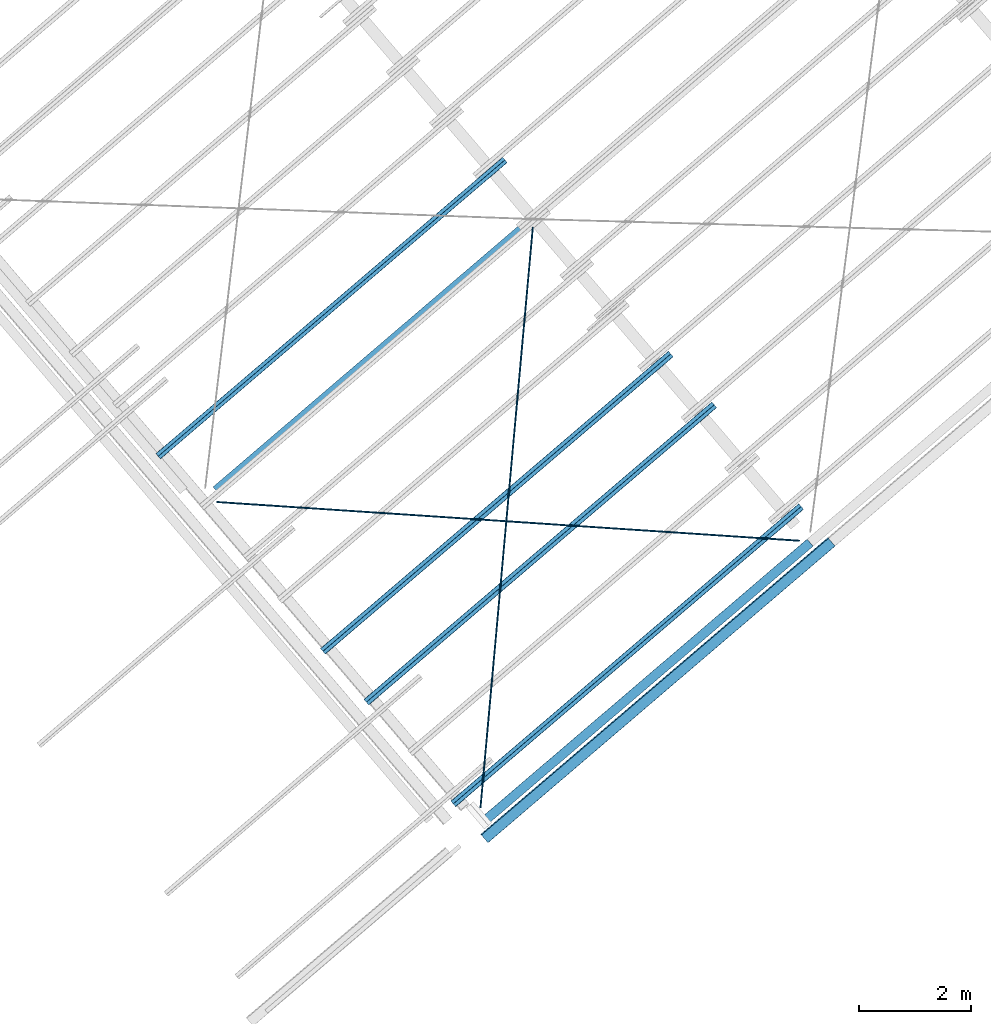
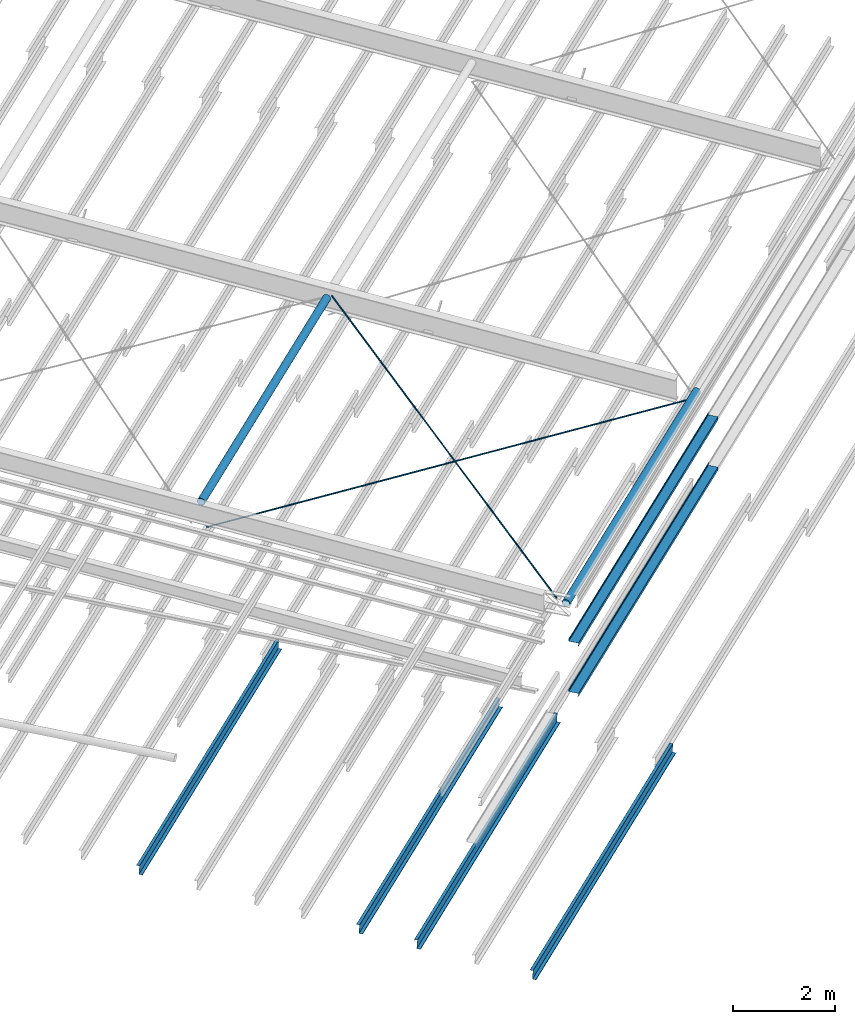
# One storey, part 3 of 25: 8 beams, 2 members, 2 elements without a shape of their own.
"""IFC2X3 building model written with IfcOpenShell, lengths in millimetres."""

from ifc_helpers import new_model, entity, si_unit, converted_unit, derived_unit, direction, frame, frame_2d, origin, origin_2d_with_axis, place, context, subcontext, project, spatial, polyline, circle_curve, parameter, trimmed, segment, composite_curve, circle, hollow_circle, outline, extrude, source, transform, mapped, material, type_object, type_shapes, element, aggregate, save


model = new_model("IFC2X3")

# Units and contexts
model_context = context("Model", 3, precision=0.01, world=origin(), true_north=direction((6.123031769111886e-17, 1.0)))
body_context = subcontext(model_context, "Body", "Model", "MODEL_VIEW")
ifc_project = project(units=[si_unit("LENGTHUNIT", "METRE", prefix="MILLI"), si_unit("AREAUNIT", "SQUARE_METRE"), si_unit("VOLUMEUNIT", "CUBIC_METRE"), converted_unit("PLANEANGLEUNIT", "DEGREE", entity("IfcRatioMeasure", 0.017453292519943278), si_unit("PLANEANGLEUNIT", "RADIAN"), dimensions=[0, 0, 0, 0, 0, 0, 0]), si_unit("MASSUNIT", "GRAM", prefix="KILO"), derived_unit("MASSDENSITYUNIT", [(si_unit("MASSUNIT", "GRAM", prefix="KILO"), 1), (si_unit("LENGTHUNIT", "METRE"), -3)]), derived_unit("MOMENTOFINERTIAUNIT", [(si_unit("LENGTHUNIT", "METRE"), 4)]), si_unit("TIMEUNIT", "SECOND"), si_unit("FREQUENCYUNIT", "HERTZ"), si_unit("THERMODYNAMICTEMPERATUREUNIT", "DEGREE_CELSIUS"), derived_unit("THERMALTRANSMITTANCEUNIT", [(si_unit("MASSUNIT", "GRAM", prefix="KILO"), 1), (si_unit("THERMODYNAMICTEMPERATUREUNIT", "KELVIN"), -1), (si_unit("TIMEUNIT", "SECOND"), -3)]), derived_unit("VOLUMETRICFLOWRATEUNIT", [(si_unit("LENGTHUNIT", "METRE"), 3), (si_unit("TIMEUNIT", "SECOND"), -1)]), derived_unit("MASSFLOWRATEUNIT", [(si_unit("MASSUNIT", "GRAM", prefix="KILO"), 1), (si_unit("TIMEUNIT", "SECOND"), -1)]), derived_unit("ROTATIONALFREQUENCYUNIT", [(si_unit("TIMEUNIT", "SECOND"), -1)]), si_unit("ELECTRICCURRENTUNIT", "AMPERE"), si_unit("ELECTRICVOLTAGEUNIT", "VOLT"), si_unit("POWERUNIT", "WATT"), si_unit("FORCEUNIT", "NEWTON", prefix="KILO"), si_unit("ILLUMINANCEUNIT", "LUX"), si_unit("LUMINOUSFLUXUNIT", "LUMEN"), si_unit("LUMINOUSINTENSITYUNIT", "CANDELA"), derived_unit("USERDEFINED", [(si_unit("MASSUNIT", "GRAM", prefix="KILO"), -1), (si_unit("LENGTHUNIT", "METRE"), -2), (si_unit("TIMEUNIT", "SECOND"), 3), (si_unit("LUMINOUSFLUXUNIT", "LUMEN"), 1)]), derived_unit("SOUNDPOWERUNIT", [(si_unit("MASSUNIT", "GRAM", prefix="KILO"), 1), (si_unit("LENGTHUNIT", "METRE"), 2), (si_unit("TIMEUNIT", "SECOND"), -3)]), derived_unit("LINEARVELOCITYUNIT", [(si_unit("LENGTHUNIT", "METRE"), 1), (si_unit("TIMEUNIT", "SECOND"), -1)]), si_unit("PRESSUREUNIT", "PASCAL"), derived_unit("USERDEFINED", [(si_unit("LENGTHUNIT", "METRE"), -2), (si_unit("MASSUNIT", "GRAM", prefix="KILO"), 1), (si_unit("TIMEUNIT", "SECOND"), -2)]), derived_unit("LINEARFORCEUNIT", [(si_unit("MASSUNIT", "GRAM", prefix="KILO"), 1), (si_unit("LENGTHUNIT", "METRE"), 1), (si_unit("TIMEUNIT", "SECOND"), -2), (si_unit("LENGTHUNIT", "METRE"), -1)]), derived_unit("PLANARFORCEUNIT", [(si_unit("MASSUNIT", "GRAM", prefix="KILO"), 1), (si_unit("LENGTHUNIT", "METRE"), 1), (si_unit("TIMEUNIT", "SECOND"), -2), (si_unit("LENGTHUNIT", "METRE"), -2)])], contexts=[model_context])

# Site, building, storey
site_placement = place(None, frame((962.4174930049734, -6014.433753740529, 0.0), z_axis=(0.0, 0.0, 1.0), x_axis=(0.7601792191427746, 0.649713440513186, 0.0)))
site = spatial("IfcSite", under=ifc_project, at=site_placement, Name="Default", CompositionType="ELEMENT")
building_placement = place(site_placement, origin())
building = spatial("IfcBuilding", under=site, at=building_placement, CompositionType="ELEMENT")
storey_placement = place(building_placement, frame((0.0, 0.0, 9200.0)))
storey = spatial("IfcBuildingStorey", under=building, at=storey_placement, Name="TOP OF CEILING", CompositionType="ELEMENT", Elevation=9200.000000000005)

# Beams
ifc_material_1 = material(Name="Metal - Steel - 300 MPa")
beam_type_1 = type_object("IfcBeamType", Name="ADSK_AU_CHS-Circular Hollow Sections (AS 1163_C350):168.3x6.4CHS", PredefinedType="NOTDEFINED")
beam_1_placement = place(storey_placement, frame((162338.96020471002, -18370.81558212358, 2557.8785563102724), z_axis=(0.0, 0.0, 1.0), x_axis=(-1.0, 0.0, 0.0)))
element("IfcBeam", 1, at=beam_1_placement, inside=storey, type_object=beam_type_1, material=ifc_material_1, Name="ADSK_AU_CHS-Circular Hollow Sections (AS 1163_C350):168.3x6.4CHS", ObjectType="ADSK_AU_CHS-Circular Hollow Sections (AS 1163_C350):168.3x6.4CHS", context=body_context, shape_type="SweptSolid", body=[
    extrude(hollow_circle(Radius=84.15000000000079, WallThickness=6.4000000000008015, at=origin_2d_with_axis()), frame((116.10000000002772, 0.0, -84.15000000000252), z_axis=(1.0, 0.0, 0.0), x_axis=(0.0, 1.0, 0.0)), (0.0, 0.0, 1.0), 7358.8009537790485),
])
beam_2_placement = place(storey_placement, frame((154571.26020471, -25988.428082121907, 2036.6362333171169)))
element("IfcBeam", 2, at=beam_2_placement, inside=storey, type_object=beam_type_1, material=ifc_material_1, Name="ADSK_AU_CHS-Circular Hollow Sections (AS 1163_C350):168.3x6.4CHS", ObjectType="ADSK_AU_CHS-Circular Hollow Sections (AS 1163_C350):168.3x6.4CHS", context=body_context, shape_type="SweptSolid", body=[
    extrude(hollow_circle(Radius=84.15000000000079, WallThickness=6.4000000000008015, at=origin_2d_with_axis()), frame((117.19999999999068, 0.0, -84.15000000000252), z_axis=(1.0, 0.0, 0.0), x_axis=(0.0, 1.0, 0.0)), (0.0, 0.0, 1.0), 7650.4999999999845),
])
beam_type_2 = type_object("IfcBeamType", Name="ADSK_AU_Round Bars (AS 3679_1):24ROD", PredefinedType="NOTDEFINED")
beam_3_placement = place(storey_placement, frame((154571.26020471, -25957.92808212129, 1970.0), z_axis=(-0.038674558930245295, -0.03777543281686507, 0.9985375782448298), x_axis=(0.7143273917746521, 0.6977203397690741, 0.05406204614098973)))
element("IfcBeam", 3, at=beam_3_placement, inside=storey, type_object=beam_type_2, Name="ADSK_AU_Round Bars (AS 3679_1):24ROD", ObjectType="ADSK_AU_Round Bars (AS 3679_1):24ROD", context=body_context, shape_type="SweptSolid", body=[
    extrude(circle(Radius=12.000000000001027, at=frame_2d((-3.9086707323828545e-25, -2.1625670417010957e-12), x_axis=(1.0, 0.0))), frame((279.72275504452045, 0.0, -12.0), z_axis=(1.0, 0.0, 0.0), x_axis=(0.0, -1.0, 0.0)), (0.0, 0.0, 1.0), 10447.500000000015),
])
beam_4_placement = place(storey_placement, frame((162338.96020470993, -25957.928082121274, 1800.0), z_axis=(0.013832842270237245, -0.013511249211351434, 0.9998130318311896), x_axis=(-0.7152398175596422, 0.6986115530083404, 0.01933652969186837)))
element("IfcBeam", 4, at=beam_4_placement, inside=storey, type_object=beam_type_2, Name="ADSK_AU_Round Bars (AS 3679_1):24ROD", ObjectType="ADSK_AU_Round Bars (AS 3679_1):24ROD", context=body_context, shape_type="SweptSolid", body=[
    extrude(circle(Radius=11.999999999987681, at=frame_2d((3.098618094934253e-12, 1.521582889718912e-11), x_axis=(1.0, 0.0))), frame((170.5367242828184, 0.0, -12.0), z_axis=(1.0, 0.0, 0.0), x_axis=(0.0, -1.0, 0.0)), (0.0, 0.0, 1.0), 10456.700000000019),
])

# Assembly, beam
assembly_1_placement = place(storey_placement, origin())
assembly_1 = element("IfcElementAssembly", 5, at=assembly_1_placement, inside=storey, Name="Structural Beam System:Structural Beam System 1", ObjectType="Structural Beam System:Structural Beam System 1", AssemblyPlace="NOTDEFINED", PredefinedType="BEAM_GRID")
ifc_material_2 = material(Name="Metal - Steel - 345 MPa")
beam_type_3 = type_object("IfcBeamType", Name="ADSK_AU_Light Gauge-Zeds:Z20015", PredefinedType="NOTDEFINED")
beam_5_placement = place(building_placement, frame((162638.96020471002, -17232.97461266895, 2984.9614142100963), z_axis=(0.0, 0.0, 1.0), x_axis=(-1.0, 0.0, 0.0)))
beam_5 = element("IfcBeam", 6, at=beam_5_placement, type_object=beam_type_3, material=ifc_material_2, Name="ADSK_AU_Light Gauge-Zeds:Z20015", ObjectType="ADSK_AU_Light Gauge-Zeds:Z20015", context=body_context, shape_type="SweptSolid", body=[
    extrude(outline(composite_curve([segment(polyline([(100.0, 1.0), (100.0, -69.0)]), True, "CONTINUOUS"), segment(trimmed(circle_curve(frame_2d((98.0, -69.0), x_axis=(0.0, -1.0)), 2.000000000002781), [parameter(0.0)], [parameter(89.99999999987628)], True, "PARAMETER"), False, "CONTINUOUS"), segment(polyline([(98.0, -71.0), (81.49999999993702, -71.0)]), True, "CONTINUOUS"), segment(polyline([(81.49999999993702, -71.0), (81.49999999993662, -72.50000000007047)]), True, "CONTINUOUS"), segment(polyline([(81.49999999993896, -72.50000000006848), (98.0, -72.5000000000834)]), True, "CONTINUOUS"), segment(trimmed(circle_curve(frame_2d((98.0, -69.0), x_axis=(1.0, 0.0)), 3.5000000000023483), [parameter(270.00000000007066)], [parameter(0.0)], True, "PARAMETER"), True, "CONTINUOUS"), segment(polyline([(101.49999999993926, -69.0), (101.50000000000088, 1.0)]), True, "CONTINUOUS"), segment(trimmed(circle_curve(frame_2d((98.0, 1.0), x_axis=(0.0, 1.0)), 3.500000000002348), [parameter(270.00000000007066)], [parameter(0.0)], True, "PARAMETER"), True, "CONTINUOUS"), segment(polyline([(98.0, 4.49999999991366), (-98.0, 4.500000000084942)]), True, "CONTINUOUS"), segment(trimmed(circle_curve(frame_2d((-98.0, 6.500000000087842), x_axis=(-1.0, 0.0)), 2.0000000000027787), [parameter(0.0)], [parameter(89.99999999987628)], True, "PARAMETER"), False, "CONTINUOUS"), segment(polyline([(-100.0, 6.500000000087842), (-100.0, 64.0)]), True, "CONTINUOUS"), segment(trimmed(circle_curve(frame_2d((-98.0, 64.0), x_axis=(0.0, 1.0)), 2.000000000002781), [parameter(0.0)], [parameter(89.99999999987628)], True, "PARAMETER"), False, "CONTINUOUS"), segment(polyline([(-98.0, 66.0), (-81.49999999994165, 66.0)]), True, "CONTINUOUS"), segment(polyline([(-81.4999999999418, 66.0), (-81.49999999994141, 67.5000000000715)]), True, "CONTINUOUS"), segment(polyline([(-81.49999999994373, 67.50000000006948), (-98.0, 67.50000000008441)]), True, "CONTINUOUS"), segment(trimmed(circle_curve(frame_2d((-98.0, 64.0), x_axis=(-1.0, 0.0)), 3.500000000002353), [parameter(270.00000000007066)], [parameter(0.0)], True, "PARAMETER"), True, "CONTINUOUS"), segment(polyline([(-101.49999999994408, 64.0), (-101.4999999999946, 6.500000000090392)]), True, "CONTINUOUS"), segment(trimmed(circle_curve(frame_2d((-98.0, 6.500000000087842), x_axis=(0.0, -1.0)), 3.5000000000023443), [parameter(270.00000000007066)], [parameter(0.0)], True, "PARAMETER"), True, "CONTINUOUS"), segment(polyline([(-98.0, 3.0), (98.0, 3.0)]), True, "CONTINUOUS"), segment(trimmed(circle_curve(frame_2d((98.0, 1.0), x_axis=(1.0, 0.0)), 2.000000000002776), [parameter(0.0)], [parameter(89.99999999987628)], True, "PARAMETER"), False, "CONTINUOUS")], self_intersect=False)), frame((0.013129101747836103, -2.5912438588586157, -101.56665523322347), z_axis=(-1.0, 0.0, 0.0), x_axis=(0.0, -0.06975647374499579, -0.9975640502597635)), (0.0, 0.0, -1.0), 8164.000000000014),
])
aggregate(assembly_1, [beam_5])

# Assembly, beams
assembly_2_placement = place(storey_placement, origin())
assembly_2 = element("IfcElementAssembly", 7, at=assembly_2_placement, inside=storey, Name="Structural Beam System:Structural Beam System 1", ObjectType="Structural Beam System:Structural Beam System 1", AssemblyPlace="NOTDEFINED", PredefinedType="BEAM_GRID")
ifc_material_3 = material(Name="Metal - Light Gauge")
beam_type_4 = type_object("IfcBeamType", Name="ADSK_AU_Light Gauge-Zeds:Z20024", PredefinedType="NOTDEFINED")
beam_6_placement = place(building_placement, frame((162638.67477392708, -21800.485312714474, 2665.569952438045), z_axis=(0.0, 0.0, 1.0), x_axis=(-1.0, 0.0, 0.0)))
beam_6 = element("IfcBeam", 8, at=beam_6_placement, type_object=beam_type_4, material=ifc_material_3, Name="ADSK_AU_Light Gauge-Zeds:Z20024", ObjectType="ADSK_AU_Light Gauge-Zeds:Z20024", context=body_context, shape_type="SweptSolid", body=[
    extrude(outline(composite_curve([segment(polyline([(99.10000000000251, 1.030000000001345), (99.10000000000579, -71.66999999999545)]), True, "CONTINUOUS"), segment(trimmed(circle_curve(frame_2d((97.10000000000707, -71.66999999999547), x_axis=(0.0, -1.0)), 1.9999999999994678), [parameter(0.0)], [parameter(90.00000000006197)], True, "PARAMETER"), False, "CONTINUOUS"), segment(polyline([(97.10000000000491, -73.66999999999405), (79.5000000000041, -73.66999999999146)]), True, "CONTINUOUS"), segment(polyline([(79.5000000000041, -73.66999999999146), (79.50000000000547, -76.06999999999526)]), True, "CONTINUOUS"), segment(polyline([(79.50000000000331, -76.0699999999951), (97.10000000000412, -76.06999999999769)]), True, "CONTINUOUS"), segment(trimmed(circle_curve(frame_2d((97.10000000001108, -71.67000000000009), x_axis=(1.0, 0.0)), 4.39999999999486), [parameter(269.9999999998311)], [parameter(0.0)], True, "PARAMETER"), True, "CONTINUOUS"), segment(polyline([(101.50000000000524, -71.66999999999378), (101.50000000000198, 1.0300000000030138)]), True, "CONTINUOUS"), segment(trimmed(circle_curve(frame_2d((97.10000000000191, 1.030000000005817), x_axis=(0.0, 1.0)), 4.399999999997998), [parameter(269.9999999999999)], [parameter(0.0)], True, "PARAMETER"), True, "CONTINUOUS"), segment(polyline([(97.10000000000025, 5.430000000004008), (-97.09999999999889, 5.429999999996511)]), True, "CONTINUOUS"), segment(trimmed(circle_curve(frame_2d((-97.10000000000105, 7.42999999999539), x_axis=(-1.0, 0.0)), 1.9999999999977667), [parameter(0.0)], [parameter(90.00000000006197)], True, "PARAMETER"), False, "CONTINUOUS"), segment(polyline([(-99.09999999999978, 7.429999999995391), (-99.10000000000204, 66.02999999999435)]), True, "CONTINUOUS"), segment(trimmed(circle_curve(frame_2d((-97.10000000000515, 66.02999999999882), x_axis=(0.0, 1.0)), 1.9999999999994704), [parameter(0.0)], [parameter(90.00000000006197)], True, "PARAMETER"), False, "CONTINUOUS"), segment(polyline([(-97.10000000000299, 68.0299999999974), (-79.5000000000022, 68.02999999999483)]), True, "CONTINUOUS"), segment(polyline([(-79.50000000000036, 68.02999999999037), (-79.50000000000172, 70.42999999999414)]), True, "CONTINUOUS"), segment(polyline([(-79.50000000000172, 70.42999999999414), (-97.10000000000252, 70.42999999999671)]), True, "CONTINUOUS"), segment(trimmed(circle_curve(frame_2d((-97.10000000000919, 66.03000000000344), x_axis=(-1.0, 0.0)), 4.3999999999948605), [parameter(269.9999999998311)], [parameter(0.0)], True, "PARAMETER"), True, "CONTINUOUS"), segment(polyline([(-101.50000000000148, 66.02999999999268), (-101.49999999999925, 7.429999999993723)]), True, "CONTINUOUS"), segment(trimmed(circle_curve(frame_2d((-97.10000000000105, 7.42999999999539), x_axis=(0.0, -1.0)), 4.399999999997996), [parameter(269.9999999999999)], [parameter(0.0)], True, "PARAMETER"), True, "CONTINUOUS"), segment(polyline([(-97.0999999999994, 3.0299999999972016), (97.09999999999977, 3.0300000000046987)]), True, "CONTINUOUS"), segment(trimmed(circle_curve(frame_2d((97.10000000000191, 1.030000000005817), x_axis=(1.0, 0.0)), 1.9999999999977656), [parameter(0.0)], [parameter(90.00000000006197)], True, "PARAMETER"), False, "CONTINUOUS")], self_intersect=False)), frame((0.0, -1.6635092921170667, -101.63152875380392), z_axis=(-1.0, 0.0, 0.0), x_axis=(0.0, -0.06975647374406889, -0.9975640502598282)), (0.0, 0.0, -1.0), 8192.00000000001),
])
beam_7_placement = place(building_placement, frame((162638.67477392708, -22997.56217302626, 2581.8621839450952), z_axis=(0.0, 0.0, 1.0), x_axis=(-1.0, 0.0, 0.0)))
beam_7 = element("IfcBeam", 9, at=beam_7_placement, type_object=beam_type_4, material=ifc_material_3, Name="ADSK_AU_Light Gauge-Zeds:Z20024", ObjectType="ADSK_AU_Light Gauge-Zeds:Z20024", context=body_context, shape_type="SweptSolid", body=[
    extrude(outline(composite_curve([segment(polyline([(99.10000000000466, 1.030000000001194), (99.10000000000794, -71.6699999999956)]), True, "CONTINUOUS"), segment(trimmed(circle_curve(frame_2d((97.10000000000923, -71.66999999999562), x_axis=(0.0, -1.0)), 1.9999999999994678), [parameter(0.0)], [parameter(90.00000000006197)], True, "PARAMETER"), False, "CONTINUOUS"), segment(polyline([(97.10000000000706, -73.66999999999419), (79.50000000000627, -73.66999999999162)]), True, "CONTINUOUS"), segment(polyline([(79.50000000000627, -73.66999999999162), (79.50000000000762, -76.0699999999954)]), True, "CONTINUOUS"), segment(polyline([(79.50000000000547, -76.06999999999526), (97.10000000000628, -76.06999999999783)]), True, "CONTINUOUS"), segment(trimmed(circle_curve(frame_2d((97.10000000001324, -71.67000000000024), x_axis=(1.0, 0.0)), 4.39999999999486), [parameter(269.9999999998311)], [parameter(0.0)], True, "PARAMETER"), True, "CONTINUOUS"), segment(polyline([(101.5000000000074, -71.66999999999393), (101.50000000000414, 1.0300000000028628)]), True, "CONTINUOUS"), segment(trimmed(circle_curve(frame_2d((97.10000000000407, 1.0300000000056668), x_axis=(0.0, 1.0)), 4.399999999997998), [parameter(269.9999999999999)], [parameter(0.0)], True, "PARAMETER"), True, "CONTINUOUS"), segment(polyline([(97.1000000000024, 5.430000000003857), (-97.09999999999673, 5.42999999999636)]), True, "CONTINUOUS"), segment(trimmed(circle_curve(frame_2d((-97.0999999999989, 7.42999999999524), x_axis=(-1.0, 0.0)), 1.9999999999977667), [parameter(0.0)], [parameter(90.00000000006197)], True, "PARAMETER"), False, "CONTINUOUS"), segment(polyline([(-99.09999999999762, 7.42999999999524), (-99.09999999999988, 66.0299999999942)]), True, "CONTINUOUS"), segment(trimmed(circle_curve(frame_2d((-97.100000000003, 66.02999999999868), x_axis=(0.0, 1.0)), 1.9999999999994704), [parameter(0.0)], [parameter(90.00000000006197)], True, "PARAMETER"), False, "CONTINUOUS"), segment(polyline([(-97.10000000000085, 68.02999999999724), (-79.50000000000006, 68.02999999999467)]), True, "CONTINUOUS"), segment(polyline([(-79.4999999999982, 68.02999999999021), (-79.49999999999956, 70.42999999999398)]), True, "CONTINUOUS"), segment(polyline([(-79.49999999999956, 70.42999999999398), (-97.10000000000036, 70.42999999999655)]), True, "CONTINUOUS"), segment(trimmed(circle_curve(frame_2d((-97.10000000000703, 66.0300000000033), x_axis=(-1.0, 0.0)), 4.3999999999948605), [parameter(269.9999999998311)], [parameter(0.0)], True, "PARAMETER"), True, "CONTINUOUS"), segment(polyline([(-101.49999999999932, 66.02999999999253), (-101.49999999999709, 7.429999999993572)]), True, "CONTINUOUS"), segment(trimmed(circle_curve(frame_2d((-97.0999999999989, 7.42999999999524), x_axis=(0.0, -1.0)), 4.399999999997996), [parameter(269.9999999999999)], [parameter(0.0)], True, "PARAMETER"), True, "CONTINUOUS"), segment(polyline([(-97.09999999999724, 3.0299999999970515), (97.10000000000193, 3.0300000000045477)]), True, "CONTINUOUS"), segment(trimmed(circle_curve(frame_2d((97.10000000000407, 1.0300000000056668), x_axis=(1.0, 0.0)), 1.9999999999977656), [parameter(0.0)], [parameter(90.00000000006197)], True, "PARAMETER"), False, "CONTINUOUS")], self_intersect=False)), frame((0.0, -1.6635092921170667, -101.63152875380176), z_axis=(-1.0, 0.0, 0.0), x_axis=(0.0, -0.06975647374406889, -0.9975640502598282)), (0.0, 0.0, -1.0), 8192.00000000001),
])
beam_8_placement = place(building_placement, frame((162638.67477392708, -25391.715893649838, 2414.4466469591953), z_axis=(0.0, 0.0, 1.0), x_axis=(-1.0, 0.0, 0.0)))
beam_8 = element("IfcBeam", 10, at=beam_8_placement, type_object=beam_type_4, material=ifc_material_3, Name="ADSK_AU_Light Gauge-Zeds:Z20024", ObjectType="ADSK_AU_Light Gauge-Zeds:Z20024", context=body_context, shape_type="SweptSolid", body=[
    extrude(outline(composite_curve([segment(polyline([(99.10000000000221, 1.029999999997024), (99.10000000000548, -71.66999999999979)]), True, "CONTINUOUS"), segment(trimmed(circle_curve(frame_2d((97.10000000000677, -71.66999999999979), x_axis=(0.0, -1.0)), 1.9999999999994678), [parameter(0.0)], [parameter(90.00000000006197)], True, "PARAMETER"), False, "CONTINUOUS"), segment(polyline([(97.10000000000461, -73.66999999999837), (79.5000000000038, -73.6699999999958)]), True, "CONTINUOUS"), segment(polyline([(79.5000000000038, -73.6699999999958), (79.50000000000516, -76.06999999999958)]), True, "CONTINUOUS"), segment(polyline([(79.500000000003, -76.06999999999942), (97.10000000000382, -76.07000000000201)]), True, "CONTINUOUS"), segment(trimmed(circle_curve(frame_2d((97.10000000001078, -71.6700000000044), x_axis=(1.0, 0.0)), 4.39999999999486), [parameter(269.9999999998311)], [parameter(0.0)], True, "PARAMETER"), True, "CONTINUOUS"), segment(polyline([(101.50000000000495, -71.66999999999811), (101.50000000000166, 1.029999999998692)]), True, "CONTINUOUS"), segment(trimmed(circle_curve(frame_2d((97.10000000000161, 1.030000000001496), x_axis=(0.0, 1.0)), 4.399999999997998), [parameter(269.9999999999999)], [parameter(0.0)], True, "PARAMETER"), True, "CONTINUOUS"), segment(polyline([(97.09999999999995, 5.429999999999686), (-97.0999999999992, 5.429999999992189)]), True, "CONTINUOUS"), segment(trimmed(circle_curve(frame_2d((-97.10000000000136, 7.429999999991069), x_axis=(-1.0, 0.0)), 1.9999999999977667), [parameter(0.0)], [parameter(90.00000000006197)], True, "PARAMETER"), False, "CONTINUOUS"), segment(polyline([(-99.10000000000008, 7.42999999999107), (-99.10000000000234, 66.02999999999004)]), True, "CONTINUOUS"), segment(trimmed(circle_curve(frame_2d((-97.10000000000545, 66.0299999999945), x_axis=(0.0, 1.0)), 1.9999999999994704), [parameter(0.0)], [parameter(90.00000000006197)], True, "PARAMETER"), False, "CONTINUOUS"), segment(polyline([(-97.10000000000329, 68.02999999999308), (-79.5000000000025, 68.02999999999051)]), True, "CONTINUOUS"), segment(polyline([(-79.50000000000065, 68.02999999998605), (-79.50000000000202, 70.4299999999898)]), True, "CONTINUOUS"), segment(polyline([(-79.50000000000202, 70.4299999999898), (-97.10000000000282, 70.42999999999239)]), True, "CONTINUOUS"), segment(trimmed(circle_curve(frame_2d((-97.10000000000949, 66.02999999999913), x_axis=(-1.0, 0.0)), 4.3999999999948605), [parameter(269.9999999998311)], [parameter(0.0)], True, "PARAMETER"), True, "CONTINUOUS"), segment(polyline([(-101.50000000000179, 66.02999999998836), (-101.49999999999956, 7.429999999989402)]), True, "CONTINUOUS"), segment(trimmed(circle_curve(frame_2d((-97.10000000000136, 7.429999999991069), x_axis=(0.0, -1.0)), 4.399999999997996), [parameter(269.9999999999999)], [parameter(0.0)], True, "PARAMETER"), True, "CONTINUOUS"), segment(polyline([(-97.0999999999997, 3.02999999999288), (97.09999999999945, 3.030000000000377)]), True, "CONTINUOUS"), segment(trimmed(circle_curve(frame_2d((97.10000000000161, 1.030000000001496), x_axis=(1.0, 0.0)), 1.9999999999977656), [parameter(0.0)], [parameter(90.00000000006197)], True, "PARAMETER"), False, "CONTINUOUS")], self_intersect=False)), frame((0.0, -1.6635092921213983, -101.63152875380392), z_axis=(-1.0, 0.0, 0.0), x_axis=(0.0, -0.06975647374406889, -0.9975640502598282)), (0.0, 0.0, -1.0), 8192.00000000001),
])
aggregate(assembly_2, [beam_6, beam_7, beam_8])

# Members
member_type_1 = type_object("IfcMemberType", Name="ADSK_AU_Light Gauge-Zeds:Z20012", PredefinedType="BRACE", material=ifc_material_2)
shared_shape_1 = source(origin(), body_context, "Body", "SweptSolid", [
    extrude(outline(composite_curve([segment(polyline([(-98.30000000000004, -66.44000000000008), (-82.0, -66.44000000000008)]), True, "CONTINUOUS"), segment(polyline([(-82.0, -66.44000000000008), (-82.0, -65.24000000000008)]), True, "CONTINUOUS"), segment(polyline([(-82.0, -65.24000000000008), (-98.29999999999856, -65.24000000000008)]), True, "CONTINUOUS"), segment(trimmed(circle_curve(frame_2d((-98.30000000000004, -63.24000000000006), x_axis=(0.0, -1.0)), 2.0000000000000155), [parameter(270.00000000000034)], [parameter(0.0)], True, "PARAMETER"), False, "CONTINUOUS"), segment(polyline([(-100.30000000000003, -63.24000000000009), (-100.29999999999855, -6.440000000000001)]), True, "CONTINUOUS"), segment(trimmed(circle_curve(frame_2d((-98.29999999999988, -6.439999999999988), x_axis=(-1.0, 0.0)), 1.9999999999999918), [parameter(269.9999999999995)], [parameter(0.0)], True, "PARAMETER"), False, "CONTINUOUS"), segment(polyline([(-98.29999999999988, -4.439999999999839), (98.30000000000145, -4.439999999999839)]), True, "CONTINUOUS"), segment(trimmed(circle_curve(frame_2d((98.29999999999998, -1.239999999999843), x_axis=(0.0, -1.0)), 3.199999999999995), [parameter(0.0)], [parameter(90.00000000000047)], True, "PARAMETER"), True, "CONTINUOUS"), segment(polyline([(101.49999999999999, -1.2399999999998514), (101.50000000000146, 68.3599999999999)]), True, "CONTINUOUS"), segment(trimmed(circle_curve(frame_2d((98.29999999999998, 68.35999999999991), x_axis=(1.0, 0.0)), 3.2000000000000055), [parameter(0.0)], [parameter(90.00000000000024)], True, "PARAMETER"), True, "CONTINUOUS"), segment(polyline([(98.3, 71.5599999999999), (82.0, 71.5599999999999)]), True, "CONTINUOUS"), segment(polyline([(82.0, 71.5599999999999), (82.0, 70.3599999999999)]), True, "CONTINUOUS"), segment(polyline([(82.0, 70.3599999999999), (98.30000000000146, 70.3599999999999)]), True, "CONTINUOUS"), segment(trimmed(circle_curve(frame_2d((98.29999999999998, 68.35999999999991), x_axis=(0.0, 1.0)), 1.9999999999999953), [parameter(269.99999999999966)], [parameter(0.0)], True, "PARAMETER"), False, "CONTINUOUS"), segment(polyline([(100.29999999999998, 68.3599999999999), (100.30000000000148, -1.2399999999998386)]), True, "CONTINUOUS"), segment(trimmed(circle_curve(frame_2d((98.29999999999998, -1.2399999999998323), x_axis=(1.0, 0.0)), 2.000000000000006), [parameter(270.00000000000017)], [parameter(0.0)], True, "PARAMETER"), False, "CONTINUOUS"), segment(polyline([(98.3, -3.2399999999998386), (-98.29999999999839, -3.2399999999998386)]), True, "CONTINUOUS"), segment(trimmed(circle_curve(frame_2d((-98.29999999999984, -6.440000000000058), x_axis=(0.0, 1.0)), 3.200000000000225), [parameter(0.0)], [parameter(89.9999999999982)], True, "PARAMETER"), True, "CONTINUOUS"), segment(polyline([(-101.50000000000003, -6.440000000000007), (-101.49999999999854, -63.24000000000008)]), True, "CONTINUOUS"), segment(trimmed(circle_curve(frame_2d((-98.30000000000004, -63.24000000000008), x_axis=(-1.0, 0.0)), 3.200000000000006), [parameter(0.0)], [parameter(90.00000000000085)], True, "PARAMETER"), True, "CONTINUOUS")], self_intersect=False)), frame((-4026.6999999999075, 4.439999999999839, 0.0), z_axis=(1.0, 0.0, 0.0), x_axis=(0.0, 0.0, -1.0)), (0.0, 0.0, 1.0), 8172.199999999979),
])
type_shapes(member_type_1, [shared_shape_1])
member_1_placement = place(storey_placement, frame((158493.46020470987, -26224.92808212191, 23.59999999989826), z_axis=(0.0, 1.0, 0.0), x_axis=(1.0, 0.0, 0.0)))
element("IfcMember", 11, at=member_1_placement, inside=storey, type_object=member_type_1, material=ifc_material_2, Name="ADSK_AU_Light Gauge-Zeds:Z20012", ObjectType="ADSK_AU_Light Gauge-Zeds:Z20012", context=body_context, shape_type="MappedRepresentation", body=[
    mapped(shared_shape_1, transform((0.0, 0.0, 0.0), scale=1.0)),
])
member_type_2 = type_object("IfcMemberType", Name="ADSK_AU_Light Gauge-Zeds:Z20012", PredefinedType="BRACE", material=ifc_material_2)
shared_shape_2 = source(origin(), body_context, "Body", "SweptSolid", [
    extrude(outline(composite_curve([segment(polyline([(-98.30000000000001, -66.44000000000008), (-82.0, -66.44000000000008)]), True, "CONTINUOUS"), segment(polyline([(-82.0, -66.44000000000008), (-82.0, -65.24000000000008)]), True, "CONTINUOUS"), segment(polyline([(-82.0, -65.24000000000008), (-98.29999999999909, -65.24000000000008)]), True, "CONTINUOUS"), segment(trimmed(circle_curve(frame_2d((-98.30000000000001, -63.24000000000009), x_axis=(0.0, -1.0)), 1.999999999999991), [parameter(269.99999999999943)], [parameter(0.0)], True, "PARAMETER"), False, "CONTINUOUS"), segment(polyline([(-100.30000000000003, -63.24000000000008), (-100.29999999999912, -6.439999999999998)]), True, "CONTINUOUS"), segment(trimmed(circle_curve(frame_2d((-98.29999999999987, -6.439999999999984), x_axis=(-1.0, 0.0)), 1.9999999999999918), [parameter(269.9999999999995)], [parameter(0.0)], True, "PARAMETER"), False, "CONTINUOUS"), segment(polyline([(-98.29999999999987, -4.439999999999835), (98.30000000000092, -4.439999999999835)]), True, "CONTINUOUS"), segment(trimmed(circle_curve(frame_2d((98.29999999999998, -1.2399999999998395), x_axis=(0.0, -1.0)), 3.199999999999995), [parameter(0.0)], [parameter(90.00000000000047)], True, "PARAMETER"), True, "CONTINUOUS"), segment(polyline([(101.49999999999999, -1.239999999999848), (101.5000000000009, 68.3599999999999)]), True, "CONTINUOUS"), segment(trimmed(circle_curve(frame_2d((98.29999999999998, 68.35999999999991), x_axis=(1.0, 0.0)), 3.2000000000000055), [parameter(0.0)], [parameter(90.00000000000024)], True, "PARAMETER"), True, "CONTINUOUS"), segment(polyline([(98.3, 71.5599999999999), (82.0, 71.5599999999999)]), True, "CONTINUOUS"), segment(polyline([(82.0, 71.5599999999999), (82.0, 70.3599999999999)]), True, "CONTINUOUS"), segment(polyline([(82.0, 70.3599999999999), (98.30000000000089, 70.3599999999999)]), True, "CONTINUOUS"), segment(trimmed(circle_curve(frame_2d((98.29999999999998, 68.35999999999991), x_axis=(0.0, 1.0)), 1.9999999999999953), [parameter(269.99999999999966)], [parameter(0.0)], True, "PARAMETER"), False, "CONTINUOUS"), segment(polyline([(100.29999999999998, 68.3599999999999), (100.3000000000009, -1.239999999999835)]), True, "CONTINUOUS"), segment(trimmed(circle_curve(frame_2d((98.29999999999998, -1.2399999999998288), x_axis=(1.0, 0.0)), 2.000000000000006), [parameter(270.00000000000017)], [parameter(0.0)], True, "PARAMETER"), False, "CONTINUOUS"), segment(polyline([(98.3, -3.239999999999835), (-98.29999999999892, -3.239999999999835)]), True, "CONTINUOUS"), segment(trimmed(circle_curve(frame_2d((-98.29999999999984, -6.440000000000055), x_axis=(0.0, 1.0)), 3.200000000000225), [parameter(0.0)], [parameter(89.9999999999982)], True, "PARAMETER"), True, "CONTINUOUS"), segment(polyline([(-101.50000000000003, -6.440000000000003), (-101.4999999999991, -63.24000000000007)]), True, "CONTINUOUS"), segment(trimmed(circle_curve(frame_2d((-98.30000000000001, -63.240000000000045), x_axis=(-1.0, 0.0)), 3.2000000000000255), [parameter(0.0)], [parameter(89.99999999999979)], True, "PARAMETER"), True, "CONTINUOUS")], self_intersect=False)), frame((-4126.699999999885, 4.439999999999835, 0.0), z_axis=(1.0, 0.0, 0.0), x_axis=(0.0, 0.0, -1.0)), (0.0, 0.0, 1.0), 8172.199999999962),
])
type_shapes(member_type_2, [shared_shape_2])
member_2_placement = place(storey_placement, frame((158593.4602047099, -26224.92808212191, 1223.5999999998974), z_axis=(0.0, 1.0, 0.0), x_axis=(1.0, 0.0, 0.0)))
element("IfcMember", 12, at=member_2_placement, inside=storey, type_object=member_type_2, material=ifc_material_2, Name="ADSK_AU_Light Gauge-Zeds:Z20012", ObjectType="ADSK_AU_Light Gauge-Zeds:Z20012", context=body_context, shape_type="MappedRepresentation", body=[
    mapped(shared_shape_2, transform((0.0, 0.0, 0.0), scale=1.0)),
])

save(model, "model.ifc")
